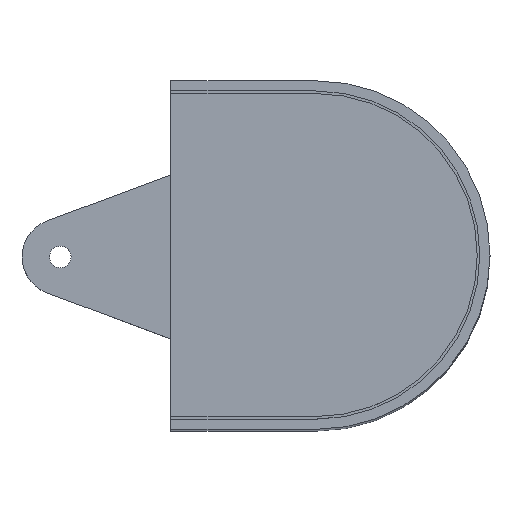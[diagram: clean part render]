
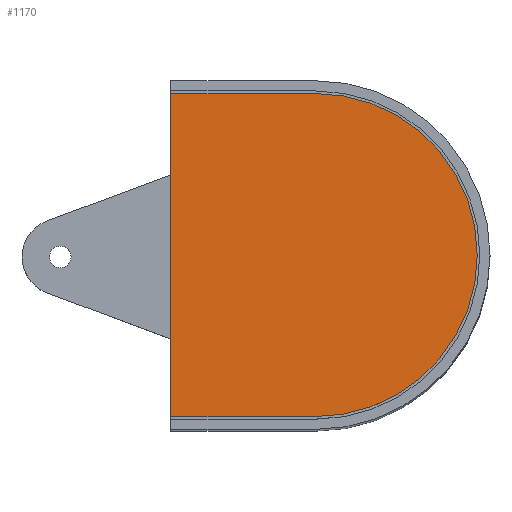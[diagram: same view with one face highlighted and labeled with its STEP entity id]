
A CAD part, top view. The second image highlights one B-rep face of the part: STEP entity #1170.
In plain terms, the highlighted planar face has unit normal (0, 0, 1).
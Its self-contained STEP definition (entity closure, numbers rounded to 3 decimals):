
#29 = ORIENTED_EDGE ( 'NONE', *, *, #2107, .T. ) ;
#63 = CARTESIAN_POINT ( 'NONE',  ( -68.25, 63.25, 211.5 ) ) ;
#133 = FACE_OUTER_BOUND ( 'NONE', #1444, .T. ) ;
#176 = VERTEX_POINT ( 'NONE', #63 ) ;
#222 = AXIS2_PLACEMENT_3D ( 'NONE', #1930, #2122, #1087 ) ;
#243 = CARTESIAN_POINT ( 'NONE',  ( -125., 63.25, 211.5 ) ) ;
#261 = ORIENTED_EDGE ( 'NONE', *, *, #1569, .T. ) ;
#398 = ORIENTED_EDGE ( 'NONE', *, *, #1853, .T. ) ;
#481 = DIRECTION ( 'NONE',  ( 1., 0., 0. ) ) ;
#684 = CARTESIAN_POINT ( 'NONE',  ( -68.25, 0., 211.5 ) ) ;
#751 = VECTOR ( 'NONE', #2036, 1000. ) ;
#1087 = DIRECTION ( 'NONE',  ( 1., 0., 0. ) ) ;
#1107 = CARTESIAN_POINT ( 'NONE',  ( -68.25, -63.25, 211.5 ) ) ;
#1108 = VECTOR ( 'NONE', #1967, 1000. ) ;
#1170 = ADVANCED_FACE ( 'NONE', ( #133 ), #1911, .T. ) ;
#1389 = CARTESIAN_POINT ( 'NONE',  ( -125., -63.25, 211.5 ) ) ;
#1422 = CARTESIAN_POINT ( 'NONE',  ( -125., -63.25, 211.5 ) ) ;
#1444 = EDGE_LOOP ( 'NONE', ( #261, #398, #1459, #29 ) ) ;
#1459 = ORIENTED_EDGE ( 'NONE', *, *, #1680, .T. ) ;
#1508 = VERTEX_POINT ( 'NONE', #243 ) ;
#1536 = CARTESIAN_POINT ( 'NONE',  ( -68.25, 63.25, 211.5 ) ) ;
#1569 = EDGE_CURVE ( 'NONE', #176, #1508, #2417, .T. ) ;
#1680 = EDGE_CURVE ( 'NONE', #2207, #2396, #2231, .T. ) ;
#1725 = DIRECTION ( 'NONE',  ( 0., 0., 1. ) ) ;
#1853 = EDGE_CURVE ( 'NONE', #1508, #2207, #2382, .T. ) ;
#1911 = PLANE ( 'NONE',  #222 ) ;
#1930 = CARTESIAN_POINT ( 'NONE',  ( -68.25, 0., 211.5 ) ) ;
#1967 = DIRECTION ( 'NONE',  ( -1., 0., 0. ) ) ;
#2036 = DIRECTION ( 'NONE',  ( 0., -1., 0. ) ) ;
#2107 = EDGE_CURVE ( 'NONE', #2396, #176, #2569, .T. ) ;
#2122 = DIRECTION ( 'NONE',  ( 0., 0., 1. ) ) ;
#2207 = VERTEX_POINT ( 'NONE', #1422 ) ;
#2231 = LINE ( 'NONE', #1389, #2262 ) ;
#2262 = VECTOR ( 'NONE', #2385, 1000. ) ;
#2327 = AXIS2_PLACEMENT_3D ( 'NONE', #684, #1725, #481 ) ;
#2382 = LINE ( 'NONE', #2625, #751 ) ;
#2385 = DIRECTION ( 'NONE',  ( 1., 0., 0. ) ) ;
#2396 = VERTEX_POINT ( 'NONE', #1107 ) ;
#2417 = LINE ( 'NONE', #1536, #1108 ) ;
#2569 = CIRCLE ( 'NONE', #2327, 63.25 ) ;
#2625 = CARTESIAN_POINT ( 'NONE',  ( -125., 63.25, 211.5 ) ) ;
